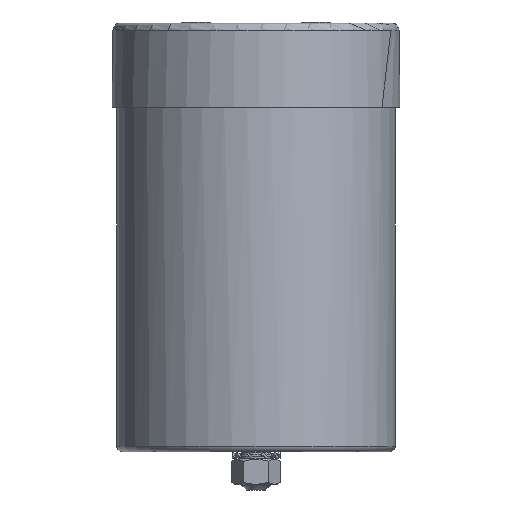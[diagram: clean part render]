
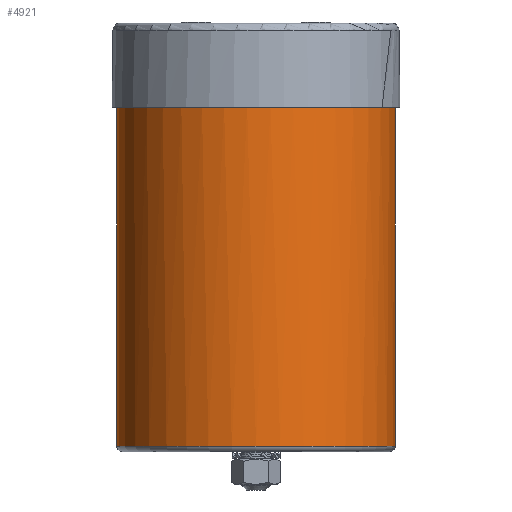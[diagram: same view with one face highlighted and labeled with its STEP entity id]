
A CAD part, front view. The second image highlights one B-rep face of the part: STEP entity #4921.
In plain terms, the highlighted cylindrical face has radius 58 mm (diameter 116 mm), a partial arc.
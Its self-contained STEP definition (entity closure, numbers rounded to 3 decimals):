
#5 = VECTOR ( 'NONE', #4005, 1000. ) ;
#102 = FACE_OUTER_BOUND ( 'NONE', #3354, .T. ) ;
#490 = CARTESIAN_POINT ( 'NONE',  ( -15.5, 0., 151.967 ) ) ;
#895 = VERTEX_POINT ( 'NONE', #1810 ) ;
#963 = CARTESIAN_POINT ( 'NONE',  ( -15.5, 0., 123.467 ) ) ;
#1045 = EDGE_CURVE ( 'NONE', #895, #1983, #7239, .T. ) ;
#1510 = DIRECTION ( 'NONE',  ( 0., 0., -1. ) ) ;
#1660 = LINE ( 'NONE', #2578, #5 ) ;
#1729 = ORIENTED_EDGE ( 'NONE', *, *, #7640, .F. ) ;
#1810 = CARTESIAN_POINT ( 'NONE',  ( 42.5, 0., -18.854 ) ) ;
#1983 = VERTEX_POINT ( 'NONE', #4830 ) ;
#1996 = VECTOR ( 'NONE', #1510, 1000. ) ;
#2102 = VERTEX_POINT ( 'NONE', #5031 ) ;
#2578 = CARTESIAN_POINT ( 'NONE',  ( 42.5, 0., 151.967 ) ) ;
#3026 = ORIENTED_EDGE ( 'NONE', *, *, #1045, .F. ) ;
#3272 = CARTESIAN_POINT ( 'NONE',  ( 42.5, 0., 123.467 ) ) ;
#3323 = AXIS2_PLACEMENT_3D ( 'NONE', #9188, #4326, #5143 ) ;
#3354 = EDGE_LOOP ( 'NONE', ( #6230, #1729, #4551, #3593, #3026 ) ) ;
#3445 = DIRECTION ( 'NONE',  ( -1., 0., 0. ) ) ;
#3475 = CYLINDRICAL_SURFACE ( 'NONE', #4774, 58. ) ;
#3593 = ORIENTED_EDGE ( 'NONE', *, *, #5322, .T. ) ;
#3608 = LINE ( 'NONE', #7967, #1996 ) ;
#3966 = EDGE_CURVE ( 'NONE', #5503, #2102, #4427, .T. ) ;
#4005 = DIRECTION ( 'NONE',  ( 0., 0., -1. ) ) ;
#4031 = CIRCLE ( 'NONE', #7680, 58. ) ;
#4147 = VERTEX_POINT ( 'NONE', #3272 ) ;
#4326 = DIRECTION ( 'NONE',  ( 0., 0., -1. ) ) ;
#4414 = AXIS2_PLACEMENT_3D ( 'NONE', #5735, #8612, #5030 ) ;
#4427 = CIRCLE ( 'NONE', #4414, 58. ) ;
#4551 = ORIENTED_EDGE ( 'NONE', *, *, #3966, .F. ) ;
#4774 = AXIS2_PLACEMENT_3D ( 'NONE', #490, #8361, #3445 ) ;
#4830 = CARTESIAN_POINT ( 'NONE',  ( -73.5, 0., -18.854 ) ) ;
#4921 = ADVANCED_FACE ( 'NONE', ( #102 ), #3475, .T. ) ;
#5030 = DIRECTION ( 'NONE',  ( -1., 0., 0. ) ) ;
#5031 = CARTESIAN_POINT ( 'NONE',  ( 42.027, -7.39, 123.467 ) ) ;
#5143 = DIRECTION ( 'NONE',  ( -1., 0., 0. ) ) ;
#5322 = EDGE_CURVE ( 'NONE', #5503, #1983, #3608, .T. ) ;
#5503 = VERTEX_POINT ( 'NONE', #6413 ) ;
#5735 = CARTESIAN_POINT ( 'NONE',  ( -15.5, 0., 123.467 ) ) ;
#6230 = ORIENTED_EDGE ( 'NONE', *, *, #9084, .F. ) ;
#6413 = CARTESIAN_POINT ( 'NONE',  ( -73.5, 0., 123.467 ) ) ;
#6650 = DIRECTION ( 'NONE',  ( -1., 0., 0. ) ) ;
#6713 = DIRECTION ( 'NONE',  ( 0., 0., 1. ) ) ;
#7239 = CIRCLE ( 'NONE', #3323, 58. ) ;
#7640 = EDGE_CURVE ( 'NONE', #2102, #4147, #4031, .T. ) ;
#7680 = AXIS2_PLACEMENT_3D ( 'NONE', #963, #6713, #6650 ) ;
#7967 = CARTESIAN_POINT ( 'NONE',  ( -73.5, 0., 151.967 ) ) ;
#8361 = DIRECTION ( 'NONE',  ( 0., 0., -1. ) ) ;
#8612 = DIRECTION ( 'NONE',  ( 0., 0., 1. ) ) ;
#9084 = EDGE_CURVE ( 'NONE', #4147, #895, #1660, .T. ) ;
#9188 = CARTESIAN_POINT ( 'NONE',  ( -15.5, 0., -18.854 ) ) ;
